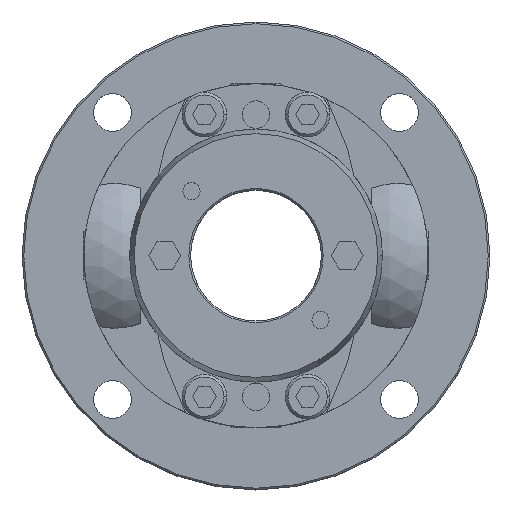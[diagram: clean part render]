
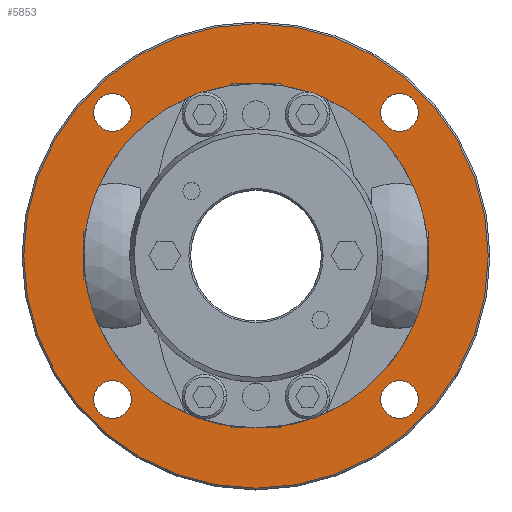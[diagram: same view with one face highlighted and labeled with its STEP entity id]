
A CAD part, top view. The second image highlights one B-rep face of the part: STEP entity #5853.
In plain terms, the highlighted planar face has unit normal (0, 0, 1).
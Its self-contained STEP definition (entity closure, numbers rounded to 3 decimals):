
#1040=CARTESIAN_POINT('',(0.,50.,-20.0));
#1041=VERTEX_POINT('',#1040);
#1157=CARTESIAN_POINT('',(0.,-50.,-20.0));
#1158=VERTEX_POINT('',#1157);
#1165=CARTESIAN_POINT('',(0.0,0.,-20.0));
#1166=DIRECTION('',(0.0,0.0,-1.0));
#1167=DIRECTION('',(0.0,1.0,0.0));
#1168=AXIS2_PLACEMENT_3D('',#1165,#1166,#1167);
#1169=CIRCLE('',#1168,50.0);
#1170=EDGE_CURVE('',#1041,#1158,#1169,.T.);
#1357=CARTESIAN_POINT('',(-41.719,47.219,-20.0));
#1358=VERTEX_POINT('',#1357);
#1367=CARTESIAN_POINT('',(-41.719,36.219,-20.0));
#1368=VERTEX_POINT('',#1367);
#1369=CARTESIAN_POINT('',(-41.719,41.719,-20.0));
#1370=DIRECTION('',(0.0,0.0,-1.0));
#1371=DIRECTION('',(0.0,1.0,0.0));
#1372=AXIS2_PLACEMENT_3D('',#1369,#1370,#1371);
#1373=CIRCLE('',#1372,5.5);
#1374=EDGE_CURVE('',#1368,#1358,#1373,.T.);
#1399=CARTESIAN_POINT('',(-41.719,-36.219,-20.0));
#1400=VERTEX_POINT('',#1399);
#1409=CARTESIAN_POINT('',(-41.719,-47.219,-20.0));
#1410=VERTEX_POINT('',#1409);
#1411=CARTESIAN_POINT('',(-41.719,-41.719,-20.0));
#1412=DIRECTION('',(0.0,0.0,-1.0));
#1413=DIRECTION('',(0.0,1.0,0.0));
#1414=AXIS2_PLACEMENT_3D('',#1411,#1412,#1413);
#1415=CIRCLE('',#1414,5.5);
#1416=EDGE_CURVE('',#1410,#1400,#1415,.T.);
#1441=CARTESIAN_POINT('',(41.719,-36.219,-20.0));
#1442=VERTEX_POINT('',#1441);
#1451=CARTESIAN_POINT('',(41.719,-47.219,-20.0));
#1452=VERTEX_POINT('',#1451);
#1453=CARTESIAN_POINT('',(41.719,-41.719,-20.0));
#1454=DIRECTION('',(0.0,0.0,-1.0));
#1455=DIRECTION('',(0.0,1.0,0.0));
#1456=AXIS2_PLACEMENT_3D('',#1453,#1454,#1455);
#1457=CIRCLE('',#1456,5.5);
#1458=EDGE_CURVE('',#1452,#1442,#1457,.T.);
#1483=CARTESIAN_POINT('',(41.719,47.219,-20.0));
#1484=VERTEX_POINT('',#1483);
#1493=CARTESIAN_POINT('',(41.719,36.219,-20.0));
#1494=VERTEX_POINT('',#1493);
#1495=CARTESIAN_POINT('',(41.719,41.719,-20.0));
#1496=DIRECTION('',(0.0,0.0,-1.0));
#1497=DIRECTION('',(0.0,1.0,0.0));
#1498=AXIS2_PLACEMENT_3D('',#1495,#1496,#1497);
#1499=CIRCLE('',#1498,5.5);
#1500=EDGE_CURVE('',#1494,#1484,#1499,.T.);
#2105=CARTESIAN_POINT('',(0.,-67.5,-20.0));
#2106=VERTEX_POINT('',#2105);
#2115=CARTESIAN_POINT('',(0.,67.5,-20.0));
#2116=VERTEX_POINT('',#2115);
#2117=CARTESIAN_POINT('',(0.0,0.,-20.0));
#2118=DIRECTION('',(0.0,0.0,-1.0));
#2119=DIRECTION('',(0.0,-1.0,0.0));
#2120=AXIS2_PLACEMENT_3D('',#2117,#2118,#2119);
#2121=CIRCLE('',#2120,67.5);
#2122=EDGE_CURVE('',#2106,#2116,#2121,.T.);
#5784=CARTESIAN_POINT('',(0.0,0.,-20.0));
#5785=DIRECTION('',(0.0,0.0,-1.0));
#5786=DIRECTION('',(0.0,-1.0,0.0));
#5787=AXIS2_PLACEMENT_3D('',#5784,#5785,#5786);
#5788=CIRCLE('',#5787,67.5);
#5789=EDGE_CURVE('',#2116,#2106,#5788,.T.);
#5794=CARTESIAN_POINT('',(0.,6.182,-20.0));
#5795=DIRECTION('',(0.0,0.0,1.0));
#5796=DIRECTION('',(0.0,1.0,0.0));
#5797=AXIS2_PLACEMENT_3D('',#5794,#5795,#5796);
#5798=PLANE('',#5797);
#5799=ORIENTED_EDGE('',*,*,#5789,.F.);
#5800=ORIENTED_EDGE('',*,*,#2122,.F.);
#5801=EDGE_LOOP('',(#5799,#5800));
#5802=FACE_OUTER_BOUND('',#5801,.T.);
#5803=CARTESIAN_POINT('',(0.0,0.,-20.0));
#5804=DIRECTION('',(0.0,0.0,-1.0));
#5805=DIRECTION('',(0.0,1.0,0.0));
#5806=AXIS2_PLACEMENT_3D('',#5803,#5804,#5805);
#5807=CIRCLE('',#5806,50.0);
#5808=EDGE_CURVE('',#1158,#1041,#5807,.T.);
#5809=ORIENTED_EDGE('',*,*,#5808,.T.);
#5810=ORIENTED_EDGE('',*,*,#1170,.T.);
#5811=EDGE_LOOP('',(#5809,#5810));
#5812=FACE_BOUND('',#5811,.T.);
#5813=ORIENTED_EDGE('',*,*,#1374,.T.);
#5814=CARTESIAN_POINT('',(-41.719,41.719,-20.0));
#5815=DIRECTION('',(0.0,0.0,-1.0));
#5816=DIRECTION('',(0.0,1.0,0.0));
#5817=AXIS2_PLACEMENT_3D('',#5814,#5815,#5816);
#5818=CIRCLE('',#5817,5.5);
#5819=EDGE_CURVE('',#1358,#1368,#5818,.T.);
#5820=ORIENTED_EDGE('',*,*,#5819,.T.);
#5821=EDGE_LOOP('',(#5813,#5820));
#5822=FACE_BOUND('',#5821,.T.);
#5823=ORIENTED_EDGE('',*,*,#1416,.T.);
#5824=CARTESIAN_POINT('',(-41.719,-41.719,-20.0));
#5825=DIRECTION('',(0.0,0.0,-1.0));
#5826=DIRECTION('',(0.0,1.0,0.0));
#5827=AXIS2_PLACEMENT_3D('',#5824,#5825,#5826);
#5828=CIRCLE('',#5827,5.5);
#5829=EDGE_CURVE('',#1400,#1410,#5828,.T.);
#5830=ORIENTED_EDGE('',*,*,#5829,.T.);
#5831=EDGE_LOOP('',(#5823,#5830));
#5832=FACE_BOUND('',#5831,.T.);
#5833=ORIENTED_EDGE('',*,*,#1458,.T.);
#5834=CARTESIAN_POINT('',(41.719,-41.719,-20.0));
#5835=DIRECTION('',(0.0,0.0,-1.0));
#5836=DIRECTION('',(0.0,1.0,0.0));
#5837=AXIS2_PLACEMENT_3D('',#5834,#5835,#5836);
#5838=CIRCLE('',#5837,5.5);
#5839=EDGE_CURVE('',#1442,#1452,#5838,.T.);
#5840=ORIENTED_EDGE('',*,*,#5839,.T.);
#5841=EDGE_LOOP('',(#5833,#5840));
#5842=FACE_BOUND('',#5841,.T.);
#5843=ORIENTED_EDGE('',*,*,#1500,.T.);
#5844=CARTESIAN_POINT('',(41.719,41.719,-20.0));
#5845=DIRECTION('',(0.0,0.0,-1.0));
#5846=DIRECTION('',(0.0,1.0,0.0));
#5847=AXIS2_PLACEMENT_3D('',#5844,#5845,#5846);
#5848=CIRCLE('',#5847,5.5);
#5849=EDGE_CURVE('',#1484,#1494,#5848,.T.);
#5850=ORIENTED_EDGE('',*,*,#5849,.T.);
#5851=EDGE_LOOP('',(#5843,#5850));
#5852=FACE_BOUND('',#5851,.T.);
#5853=ADVANCED_FACE('',(#5802,#5812,#5822,#5832,#5842,#5852),#5798,.T.);
